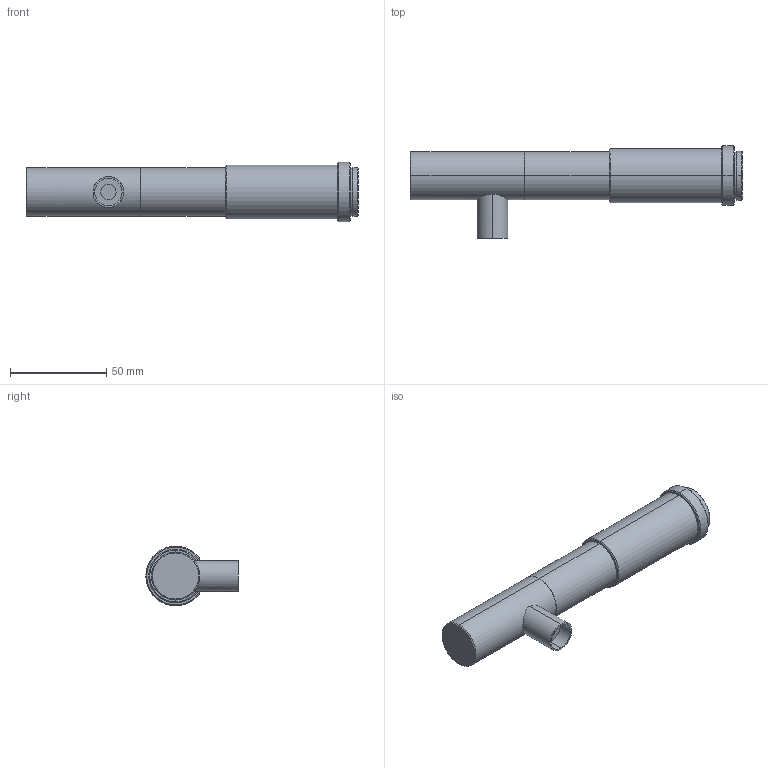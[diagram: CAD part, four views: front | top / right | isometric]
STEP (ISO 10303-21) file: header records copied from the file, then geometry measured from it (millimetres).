
FILE_DESCRIPTION (( 'STEP AP203' ), '1' );
FILE_NAME ('VS-TCM6-50CO.STEP', '2017-11-16T01:17:12', ( 'miura_vst' ), ( '' ), 'SwSTEP 2.0', 'SolidWorks 2017', '' );
FILE_SCHEMA (( 'CONFIG_CONTROL_DESIGN' ));
Length unit declared in the file: millimetre
Products named in the file (1): VS-TCM6-50CO
Bounding box: 172.7 x 48 x 31 mm (x, y, z)
Volume: 96361.4 mm3; surface area: 17260.7 mm2
Topology: 1 solids, 1 shells, 42 faces, 82 edges, 48 vertices
Faces by surface type: cylinder 18, cone 16, plane 8
Entity records: 1229 total; most frequent: CARTESIAN_POINT 257, DIRECTION 212, ORIENTED_EDGE 164, AXIS2_PLACEMENT_3D 89, EDGE_CURVE 82, VERTEX_POINT 48, EDGE_LOOP 48, CIRCLE 46
